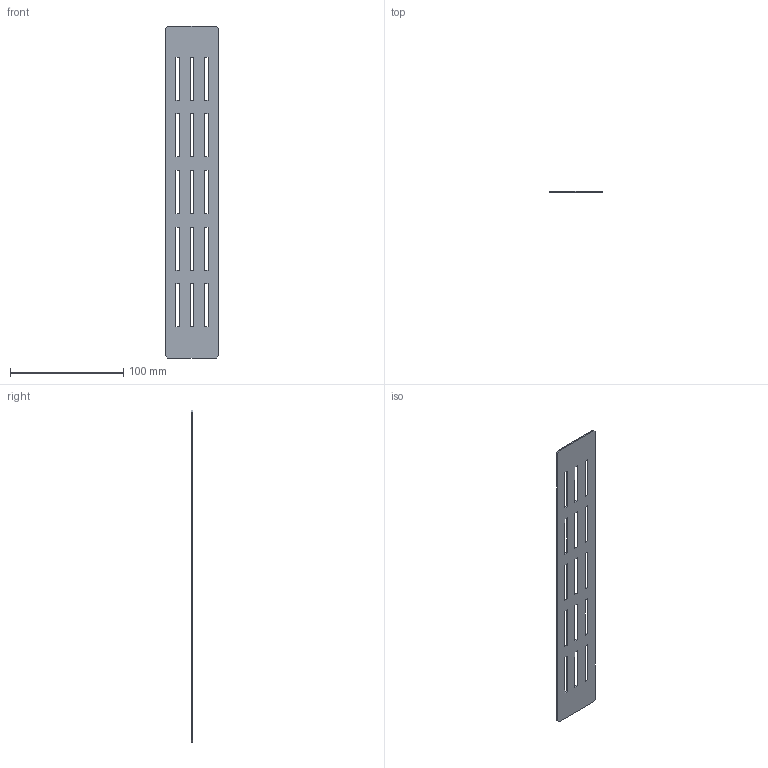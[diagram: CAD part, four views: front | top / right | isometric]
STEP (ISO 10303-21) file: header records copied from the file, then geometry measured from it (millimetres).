
FILE_DESCRIPTION(('CAx-IF Rec.Pracs.---Model Styling and Organization---1.2---2011-12-15','CAx-IF Rec.Pracs.---Geometric and Assembly Validation Properties---4.1---2014-06-16','CAx-IF Rec.Pracs.---PMI Polyline Presentation---2.0---2013-05-24'),'2;1');
FILE_NAME('R5M2W1MFC.stp','2021-05-05T12:53:47+03:00',(''),(''),'STEP Interface 4.4 by CT CoreTechnologie','3D_Evolution4.4 by CT CoreTechnologie','');
FILE_SCHEMA(('AUTOMOTIVE_DESIGN { 1 0 10303 214 1 1 1 1 }'));
Length unit declared in the file: millimetre
Products named in the file (2): R5M2W1MFÑ; RB.1389.00.00.0_-00
Assembly tree (1 placements, depth 2):
  R5M2W1MFÑ
    RB.1389.00.00.0_-00
Bounding box: 47 x 1 x 293 mm (x, y, z)
Surface area: 25456.3 mm2 (no closed solid volume)
Topology: 0 solids, 1 shells, 70 faces, 204 edges, 136 vertices
Faces by surface type: plane 70
Entity records: 2401 total; most frequent: CARTESIAN_POINT 412, ORIENTED_EDGE 408, DIRECTION 348, VECTOR 204, LINE 204, EDGE_CURVE 204, VERTEX_POINT 136, EDGE_LOOP 100
